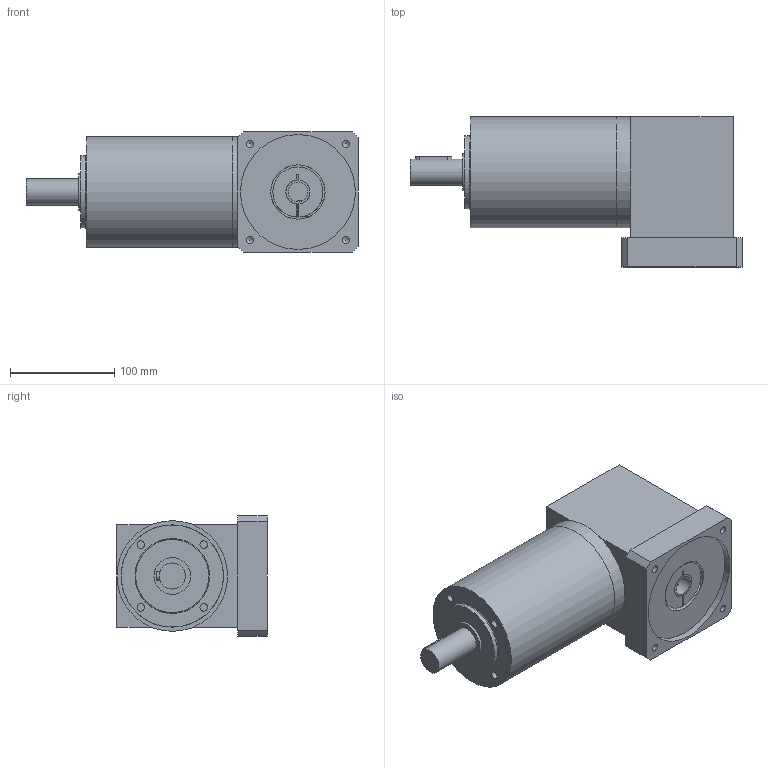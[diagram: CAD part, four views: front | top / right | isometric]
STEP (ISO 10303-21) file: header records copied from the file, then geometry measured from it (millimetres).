
FILE_DESCRIPTION(/* description */ (''),/* implementation_level */ '2;1');
FILE_NAME(/* name */ 'E0001806MP181206162530',/* time_stamp */ '2006-12-18T16:29:26+01:00',/* author */ (''),/* organization */ (''),/* preprocessor_version */ 'ST-DEVELOPER v9',/* originating_system */ 'EDS PLM SOLUTIONS - UNIGRAPHICS NX 2.0',/* authorisation */ '');
FILE_SCHEMA (('AUTOMOTIVE_DESIGN { 1 0 10303 214 0 1 1 1 }'));
Length unit declared in the file: millimetre
Products named in the file (1): E0001806MP181206162530_u3d
Bounding box: 317.8 x 143.75 x 115 mm (x, y, z)
Volume: 3336219 mm3; surface area: 288894.5 mm2
Topology: 10 solids, 10 shells, 121 faces, 280 edges, 184 vertices
Faces by surface type: plane 55, cylinder 47, cone 16, torus 3
Full cylindrical faces by diameter (mm): 5.188 x2, 6.2 x1, 6.5 x1, 6.985 x8, 7.188 x4, 10.5 x1, 17.75 x1, 19 x1, 23 x1, 25 x2, 35 x1, 52 x1, 70 x2, 80.6 x1, 89.95 x1, 90 x2, 95.4 x1, 97.85 x1, 98 x2, 106 x2, 110 x1
Entity records: 3128 total; most frequent: CARTESIAN_POINT 577, DIRECTION 537, ORIENTED_EDGE 388, AXIS2_PLACEMENT_3D 228, EDGE_LOOP 196, EDGE_CURVE 194, VERTEX_POINT 162, FACE_BOUND 127
